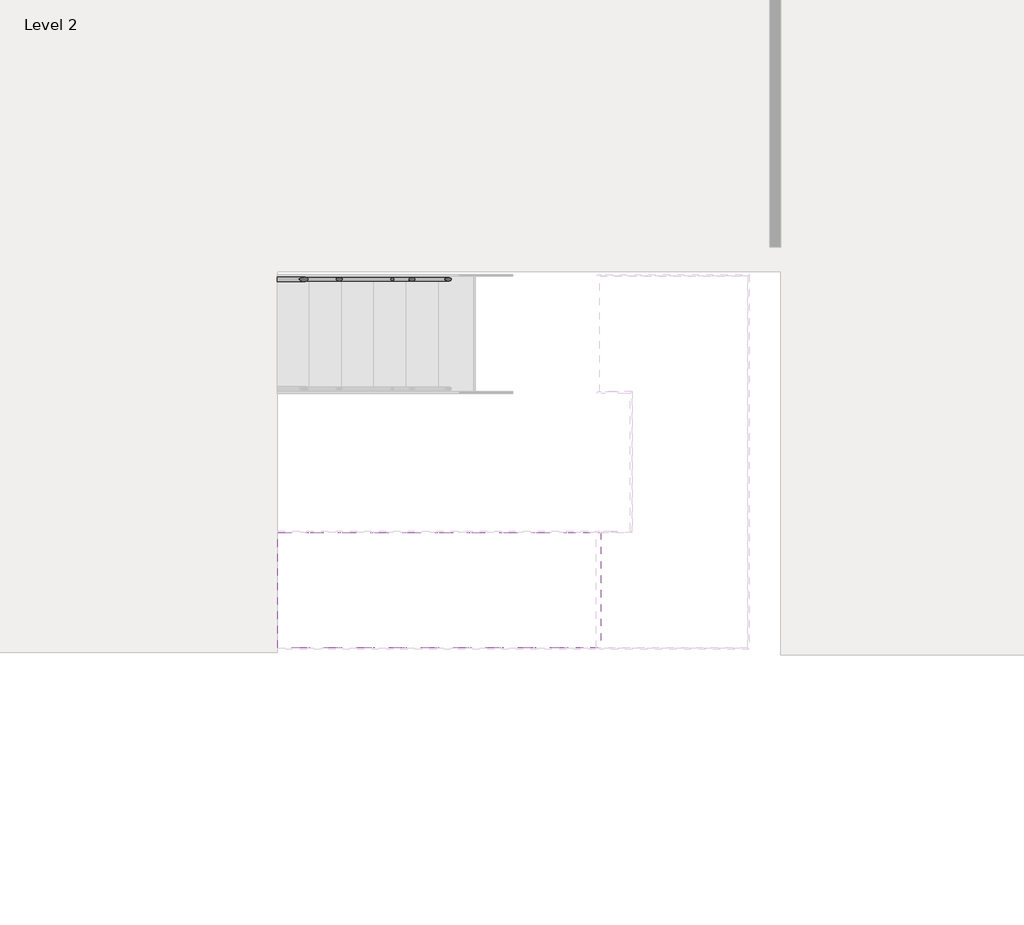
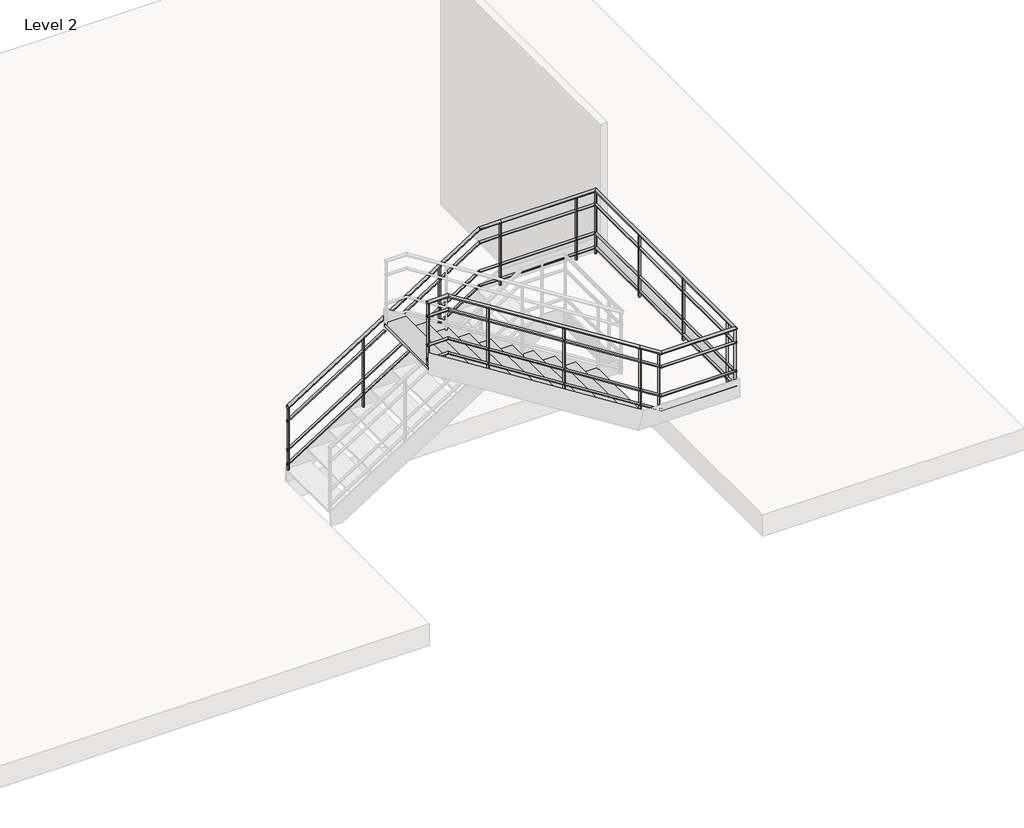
# One storey, part 6 of 7: 1 railing, 1 stair flight.
"""IFC4 building model written with IfcOpenShell, lengths in millimetres."""

from ifc_helpers import new_model, si_unit, point, frame, frame_2d, origin, place, context, project, spatial, circle_curve, ellipse_curve, trimmed, segment, composite_curve, outline, extrude, transform, mapped, element, save
from ifc_brep_helpers import plane_surface, cylinder_surface, advanced_brep
from components import concrete_steps_w_40mm_tread_40mm_nosing_be41ec30

model = new_model("IFC4")

# Units and contexts
model_context = context("Model", 3, world=origin())
ifc_project = project(units=[si_unit("LENGTHUNIT", "METRE", prefix="MILLI")], contexts=[model_context])

# Site, building, storey
site = spatial("IfcSite", under=ifc_project)
building = spatial("IfcBuilding", under=site)
storey = spatial("IfcBuildingStorey", under=building, Name="Level 2", Elevation=7450.0)

# Railing
placement = place(None, origin())
element("IfcRailing", 1, ObjectType="900mm_Pipe 2", at=placement, inside=storey, context=model_context, shape_type="SolidModel", body=[
    advanced_brep(
    [(35285.7942367, -43.5974508, 8503.8199203), (35285.7942367, -3.5974508, 8503.8199203), (37811.5994328, -43.5974508, 10105.0), (37811.5994328, -3.5974508, 10105.0), (38085.7942367, -43.5974508, 10105.0), (38085.7942367, -3.5974508, 10105.0), (39320.3942367, -43.5974508, 10105.0), (39360.3942367, -3.5974508, 10105.0), (39320.3942367, -3175.4571952, 10105.0), (39360.3942367, -3215.4571952, 10105.0), (38366.4595167, -3215.4571952, 10105.0), (38366.4595167, -3175.4571952, 10105.0), (38081.5564959, -3175.4571952, 10285.6081649), (38081.5564959, -3215.4571952, 10285.6081649), (35566.4595167, -3175.4571952, 11880.0), (35566.4595167, -3215.4571952, 11880.0), (35292.2647128, -3175.4571952, 11880.0), (35292.2647128, -3215.4571952, 11880.0)],
    [
        (0, 1, ellipse_curve(frame((35285.7942367, -23.5974508, 8503.8199203), z_axis=(-1.0, 0.0, 0.0), x_axis=(0.0, 0.0, -1.0)), 23.6800797, 20.0)),
        (1, 0, ellipse_curve(frame((35285.7942367, -23.5974508, 8503.8199203), z_axis=(-1.0, 0.0, 0.0), x_axis=(0.0, 0.0, -1.0)), 23.6800797, 20.0)),
        (0, 2),
        (2, 3, ellipse_curve(frame((37811.5994328, -23.5974508, 10105.0), z_axis=(-0.9603623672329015, 0.0, -0.27875459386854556), x_axis=(0.2787545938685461, 0.0, -0.9603623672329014)), 20.8254724, 20.0)),
        (3, 1),
        (3, 2, ellipse_curve(frame((37811.5994328, -23.5974508, 10105.0), z_axis=(-0.9603623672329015, 0.0, -0.27875459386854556), x_axis=(0.2787545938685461, 0.0, -0.9603623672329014)), 20.8254724, 20.0)),
        (2, 4),
        (4, 5, circle_curve(frame((38085.7942367, -23.5974508, 10105.0), z_axis=(-1.0, 0.0, 0.0), x_axis=(0.0, 1.0, 0.0)), 20.0)),
        (5, 3),
        (5, 4, circle_curve(frame((38085.7942367, -23.5974508, 10105.0), z_axis=(-1.0, 0.0, 0.0), x_axis=(0.0, 1.0, 0.0)), 20.0)),
        (4, 6),
        (6, 7, ellipse_curve(frame((39340.3942367, -23.5974508, 10105.0), z_axis=(-0.7071067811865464, 0.7071067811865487, 0.0), x_axis=(-0.7071067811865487, -0.7071067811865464, 0.0)), 28.2842712, 20.0)),
        (7, 5),
        (7, 6, ellipse_curve(frame((39340.3942367, -23.5974508, 10105.0), z_axis=(-0.7071067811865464, 0.7071067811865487, 0.0), x_axis=(-0.7071067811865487, -0.7071067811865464, 0.0)), 28.2842712, 20.0)),
        (6, 8),
        (8, 9, ellipse_curve(frame((39340.3942367, -3195.4571952, 10105.0), z_axis=(0.7071067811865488, 0.7071067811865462, 0.0), x_axis=(-0.7071067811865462, 0.7071067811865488, 0.0)), 28.2842712, 20.0)),
        (9, 7),
        (9, 8, ellipse_curve(frame((39340.3942367, -3195.4571952, 10105.0), z_axis=(0.7071067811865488, 0.7071067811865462, 0.0), x_axis=(-0.7071067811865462, 0.7071067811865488, 0.0)), 28.2842712, 20.0)),
        (10, 11, ellipse_curve(frame((38366.4595167, -3195.4571952, 10105.0), z_axis=(-0.9603623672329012, 0.0, 0.27875459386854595), x_axis=(-0.2787545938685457, 0.0, -0.9603623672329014)), 20.8254724, 20.0)),
        (11, 12),
        (12, 13, circle_curve(frame((38081.5564959, -3195.4571952, 10285.6081649), z_axis=(0.8445917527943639, 0.0, -0.5354108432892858), x_axis=(0.0, -1.0, 0.0)), 20.0)),
        (13, 10),
        (11, 10, ellipse_curve(frame((38366.4595167, -3195.4571952, 10105.0), z_axis=(-0.9603623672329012, 0.0, 0.27875459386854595), x_axis=(-0.2787545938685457, 0.0, -0.9603623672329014)), 20.8254724, 20.0)),
        (13, 12, circle_curve(frame((38081.5564959, -3195.4571952, 10285.6081649), z_axis=(0.8445917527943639, 0.0, -0.5354108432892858), x_axis=(0.0, -1.0, 0.0)), 20.0)),
        (12, 14),
        (14, 15, ellipse_curve(frame((35566.4595167, -3195.4571952, 11880.0), z_axis=(0.9603623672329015, 0.0, -0.27875459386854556), x_axis=(-0.27875459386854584, 0.0, -0.9603623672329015)), 20.8254724, 20.0)),
        (15, 13),
        (15, 14, ellipse_curve(frame((35566.4595167, -3195.4571952, 11880.0), z_axis=(0.9603623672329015, 0.0, -0.27875459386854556), x_axis=(-0.27875459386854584, 0.0, -0.9603623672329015)), 20.8254724, 20.0)),
        (16, 17, circle_curve(frame((35292.2647128, -3195.4571952, 11880.0), z_axis=(-1.0, 0.0, 0.0), x_axis=(0.0, -1.0, 0.0)), 20.0)),
        (17, 16, circle_curve(frame((35292.2647128, -3195.4571952, 11880.0), z_axis=(-1.0, 0.0, 0.0), x_axis=(0.0, -1.0, 0.0)), 20.0)),
        (14, 16),
        (17, 15),
        (8, 11),
        (10, 9),
    ],
    [
        plane_surface(frame((35285.7942367, -23.5974508, 8527.5), z_axis=(-1.0, 0.0, 0.0), x_axis=(0.0, 1.0, 0.0))),
        cylinder_surface(frame((35296.5024535, -23.5974508, 8510.6081649), z_axis=(-0.8445917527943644, 0.0, -0.535410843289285), x_axis=(0.0, 1.0, 0.0)), 20.0),
        cylinder_surface(frame((37805.7942367, -23.5974508, 10105.0), z_axis=(-1.0, 0.0, 0.0), x_axis=(0.0, 1.0, 0.0)), 20.0),
        cylinder_surface(frame((38085.7942367, -23.5974508, 10105.0), z_axis=(-1.0, 0.0, 0.0), x_axis=(0.0, 1.0, 0.0)), 20.0),
        cylinder_surface(frame((39340.3942367, -23.5974508, 10105.0), z_axis=(0.0, 1.0, 0.0), x_axis=(1.0, 0.0, 0.0)), 20.0),
        cylinder_surface(frame((38361.5564959, -3195.4571952, 10108.1081649), z_axis=(0.8445917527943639, 0.0, -0.5354108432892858), x_axis=(0.0, -1.0, 0.0)), 20.0),
        cylinder_surface(frame((38081.5564959, -3195.4571952, 10285.6081649), z_axis=(0.8445917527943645, 0.0, -0.535410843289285), x_axis=(0.0, -1.0, 0.0)), 20.0),
        plane_surface(frame((35292.2647128, -3195.4571952, 11900.0), z_axis=(-1.0, 0.0, 0.0), x_axis=(0.0, -1.0, 0.0))),
        cylinder_surface(frame((35572.2647128, -3195.4571952, 11880.0), z_axis=(1.0, 0.0, 0.0), x_axis=(0.0, -1.0, 0.0)), 20.0),
        cylinder_surface(frame((39340.3942367, -3195.4571952, 10105.0), z_axis=(1.0, 0.0, 0.0), x_axis=(0.0, -1.0, 0.0)), 20.0),
    ],
    [
        (0, [[1, 2]]),
        (1, [[-1, 3, 4, 5]]),
        (1, [[-2, -5, 6, -3]]),
        (2, [[-4, 7, 8, 9]]),
        (2, [[-6, -9, 10, -7]]),
        (3, [[-8, 11, 12, 13]]),
        (3, [[-10, -13, 14, -11]]),
        (4, [[-12, 15, 16, 17]]),
        (4, [[-14, -17, 18, -15]]),
        (5, [[19, 20, 21, 22]]),
        (5, [[23, -22, 24, -20]]),
        (6, [[-21, 25, 26, 27]]),
        (6, [[-24, -27, 28, -25]]),
        (7, [[29, 30]]),
        (8, [[-26, 31, -30, 32]]),
        (8, [[-28, -32, -29, -31]]),
        (9, [[-16, 33, -19, 34]]),
        (9, [[-18, -34, -23, -33]]),
    ],
),
    advanced_brep(
    [(38085.7942367, -38.5974508, 9910.0), (38085.7942367, -8.5974508, 9910.0), (39325.3942367, -38.5974508, 9910.0), (39325.3942367, -8.5974508, 9910.0)],
    [
        (0, 1, circle_curve(frame((38085.7942367, -23.5974508, 9910.0), z_axis=(-1.0, 0.0, 0.0), x_axis=(0.0, 1.0, 0.0)), 15.0)),
        (1, 0, circle_curve(frame((38085.7942367, -23.5974508, 9910.0), z_axis=(-1.0, 0.0, 0.0), x_axis=(0.0, 1.0, 0.0)), 15.0)),
        (2, 3, circle_curve(frame((39325.3942367, -23.5974508, 9910.0), z_axis=(1.0, 0.0, 0.0), x_axis=(0.0, 1.0, 0.0)), 15.0)),
        (3, 2, circle_curve(frame((39325.3942367, -23.5974508, 9910.0), z_axis=(1.0, 0.0, 0.0), x_axis=(0.0, 1.0, 0.0)), 15.0)),
        (0, 2),
        (3, 1),
    ],
    [
        plane_surface(frame((38085.7942367, -23.5974508, 9925.0), z_axis=(-1.0, 0.0, 0.0), x_axis=(0.0, 1.0, 0.0))),
        plane_surface(frame((39325.3942367, -23.5974508, 9925.0), z_axis=(1.0, 0.0, 0.0), x_axis=(0.0, 1.0, 0.0))),
        cylinder_surface(frame((38085.7942367, -23.5974508, 9910.0), z_axis=(-1.0, 0.0, 0.0), x_axis=(0.0, 1.0, 0.0)), 15.0),
    ],
    [
        (0, [[1, 2]]),
        (1, [[3, 4]]),
        (2, [[-1, 5, -4, 6]]),
        (2, [[-2, -6, -3, -5]]),
    ],
),
    advanced_brep(
    [(39325.3942367, -8.5974508, 9910.0), (39355.3942367, -8.5974508, 9910.0), (39325.3942367, -3180.4571952, 9910.0), (39355.3942367, -3180.4571952, 9910.0)],
    [
        (0, 1, circle_curve(frame((39340.3942367, -8.5974508, 9910.0), z_axis=(0.0, 1.0, 0.0), x_axis=(1.0, 0.0, 0.0)), 15.0)),
        (1, 0, circle_curve(frame((39340.3942367, -8.5974508, 9910.0), z_axis=(0.0, 1.0, 0.0), x_axis=(1.0, 0.0, 0.0)), 15.0)),
        (2, 3, circle_curve(frame((39340.3942367, -3180.4571952, 9910.0), z_axis=(0.0, -1.0, 0.0), x_axis=(1.0, 0.0, 0.0)), 15.0)),
        (3, 2, circle_curve(frame((39340.3942367, -3180.4571952, 9910.0), z_axis=(0.0, -1.0, 0.0), x_axis=(1.0, 0.0, 0.0)), 15.0)),
        (0, 2),
        (3, 1),
    ],
    [
        plane_surface(frame((39340.3942367, -8.5974508, 9925.0), z_axis=(0.0, 1.0, 0.0), x_axis=(0.0, 0.0, -1.0))),
        plane_surface(frame((39340.3942367, -3180.4571952, 9925.0), z_axis=(0.0, -1.0, 0.0), x_axis=(0.0, 0.0, -1.0))),
        cylinder_surface(frame((39340.3942367, -8.5974508, 9910.0), z_axis=(0.0, 1.0, 0.0), x_axis=(1.0, 0.0, 0.0)), 15.0),
    ],
    [
        (0, [[1, 2]]),
        (1, [[3, 4]]),
        (2, [[-1, 5, -4, 6]]),
        (2, [[-2, -6, -3, -5]]),
    ],
),
    advanced_brep(
    [(39355.3942367, -3180.4571952, 9910.0), (39355.3942367, -3210.4571952, 9910.0), (38367.9108157, -3180.4571952, 9910.0), (38367.9108157, -3210.4571952, 9910.0), (38092.2647128, -3180.4571952, 10084.7399402), (38092.2647128, -3210.4571952, 10084.7399402)],
    [
        (0, 1, circle_curve(frame((39355.3942367, -3195.4571952, 9910.0), z_axis=(1.0, 0.0, 0.0), x_axis=(0.0, -1.0, 0.0)), 15.0)),
        (1, 0, circle_curve(frame((39355.3942367, -3195.4571952, 9910.0), z_axis=(1.0, 0.0, 0.0), x_axis=(0.0, -1.0, 0.0)), 15.0)),
        (0, 2),
        (2, 3, ellipse_curve(frame((38367.9108157, -3195.4571952, 9910.0), z_axis=(0.9603623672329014, 0.0, -0.2787545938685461), x_axis=(0.2787545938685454, 0.0, 0.9603623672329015)), 15.6191043, 15.0)),
        (3, 1),
        (3, 2, ellipse_curve(frame((38367.9108157, -3195.4571952, 9910.0), z_axis=(0.9603623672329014, 0.0, -0.2787545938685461), x_axis=(0.2787545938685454, 0.0, 0.9603623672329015)), 15.6191043, 15.0)),
        (4, 5, ellipse_curve(frame((38092.2647128, -3195.4571952, 10084.7399402), z_axis=(-1.0, 0.0, 0.0), x_axis=(0.0, 0.0, -1.0)), 17.7600598, 15.0)),
        (5, 4, ellipse_curve(frame((38092.2647128, -3195.4571952, 10084.7399402), z_axis=(-1.0, 0.0, 0.0), x_axis=(0.0, 0.0, -1.0)), 17.7600598, 15.0)),
        (2, 4),
        (5, 3),
    ],
    [
        plane_surface(frame((39355.3942367, -3195.4571952, 9925.0), z_axis=(1.0, 0.0, 0.0), x_axis=(0.0, -1.0, 0.0))),
        cylinder_surface(frame((39355.3942367, -3195.4571952, 9910.0), z_axis=(1.0, 0.0, 0.0), x_axis=(0.0, -1.0, 0.0)), 15.0),
        plane_surface(frame((38092.2647128, -3195.4571952, 10102.5), z_axis=(-1.0, 0.0, 0.0), x_axis=(0.0, -1.0, 0.0))),
        cylinder_surface(frame((38364.2335502, -3195.4571952, 9912.3311237), z_axis=(0.8445917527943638, 0.0, -0.5354108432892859), x_axis=(0.0, -1.0, 0.0)), 15.0),
    ],
    [
        (0, [[1, 2]]),
        (1, [[-1, 3, 4, 5]]),
        (1, [[-2, -5, 6, -3]]),
        (2, [[7, 8]]),
        (3, [[-4, 9, -8, 10]]),
        (3, [[-6, -10, -7, -9]]),
    ],
),
    advanced_brep(
    [(38085.7942367, -38.5974508, 9510.0), (38085.7942367, -8.5974508, 9510.0), (39325.3942367, -38.5974508, 9510.0), (39325.3942367, -8.5974508, 9510.0)],
    [
        (0, 1, circle_curve(frame((38085.7942367, -23.5974508, 9510.0), z_axis=(-1.0, 0.0, 0.0), x_axis=(0.0, 1.0, 0.0)), 15.0)),
        (1, 0, circle_curve(frame((38085.7942367, -23.5974508, 9510.0), z_axis=(-1.0, 0.0, 0.0), x_axis=(0.0, 1.0, 0.0)), 15.0)),
        (2, 3, circle_curve(frame((39325.3942367, -23.5974508, 9510.0), z_axis=(1.0, 0.0, 0.0), x_axis=(0.0, 1.0, 0.0)), 15.0)),
        (3, 2, circle_curve(frame((39325.3942367, -23.5974508, 9510.0), z_axis=(1.0, 0.0, 0.0), x_axis=(0.0, 1.0, 0.0)), 15.0)),
        (0, 2),
        (3, 1),
    ],
    [
        plane_surface(frame((38085.7942367, -23.5974508, 9525.0), z_axis=(-1.0, 0.0, 0.0), x_axis=(0.0, 1.0, 0.0))),
        plane_surface(frame((39325.3942367, -23.5974508, 9525.0), z_axis=(1.0, 0.0, 0.0), x_axis=(0.0, 1.0, 0.0))),
        cylinder_surface(frame((38085.7942367, -23.5974508, 9510.0), z_axis=(-1.0, 0.0, 0.0), x_axis=(0.0, 1.0, 0.0)), 15.0),
    ],
    [
        (0, [[1, 2]]),
        (1, [[3, 4]]),
        (2, [[-1, 5, -4, 6]]),
        (2, [[-2, -6, -3, -5]]),
    ],
),
    advanced_brep(
    [(39325.3942367, -8.5974508, 9510.0), (39355.3942367, -8.5974508, 9510.0), (39325.3942367, -3180.4571952, 9510.0), (39355.3942367, -3180.4571952, 9510.0)],
    [
        (0, 1, circle_curve(frame((39340.3942367, -8.5974508, 9510.0), z_axis=(0.0, 1.0, 0.0), x_axis=(1.0, 0.0, 0.0)), 15.0)),
        (1, 0, circle_curve(frame((39340.3942367, -8.5974508, 9510.0), z_axis=(0.0, 1.0, 0.0), x_axis=(1.0, 0.0, 0.0)), 15.0)),
        (2, 3, circle_curve(frame((39340.3942367, -3180.4571952, 9510.0), z_axis=(0.0, -1.0, 0.0), x_axis=(1.0, 0.0, 0.0)), 15.0)),
        (3, 2, circle_curve(frame((39340.3942367, -3180.4571952, 9510.0), z_axis=(0.0, -1.0, 0.0), x_axis=(1.0, 0.0, 0.0)), 15.0)),
        (0, 2),
        (3, 1),
    ],
    [
        plane_surface(frame((39340.3942367, -8.5974508, 9525.0), z_axis=(0.0, 1.0, 0.0), x_axis=(0.0, 0.0, -1.0))),
        plane_surface(frame((39340.3942367, -3180.4571952, 9525.0), z_axis=(0.0, -1.0, 0.0), x_axis=(0.0, 0.0, -1.0))),
        cylinder_surface(frame((39340.3942367, -8.5974508, 9510.0), z_axis=(0.0, 1.0, 0.0), x_axis=(1.0, 0.0, 0.0)), 15.0),
    ],
    [
        (0, [[1, 2]]),
        (1, [[3, 4]]),
        (2, [[-1, 5, -4, 6]]),
        (2, [[-2, -6, -3, -5]]),
    ],
),
    advanced_brep(
    [(39355.3942367, -3180.4571952, 9510.0), (39355.3942367, -3210.4571952, 9510.0), (38367.9108157, -3180.4571952, 9510.0), (38367.9108157, -3210.4571952, 9510.0), (38092.2647128, -3180.4571952, 9684.7399402), (38092.2647128, -3210.4571952, 9684.7399402)],
    [
        (0, 1, circle_curve(frame((39355.3942367, -3195.4571952, 9510.0), z_axis=(1.0, 0.0, 0.0), x_axis=(0.0, -1.0, 0.0)), 15.0)),
        (1, 0, circle_curve(frame((39355.3942367, -3195.4571952, 9510.0), z_axis=(1.0, 0.0, 0.0), x_axis=(0.0, -1.0, 0.0)), 15.0)),
        (0, 2),
        (2, 3, ellipse_curve(frame((38367.9108157, -3195.4571952, 9510.0), z_axis=(0.9603623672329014, 0.0, -0.2787545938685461), x_axis=(0.2787545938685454, 0.0, 0.9603623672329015)), 15.6191043, 15.0)),
        (3, 1),
        (3, 2, ellipse_curve(frame((38367.9108157, -3195.4571952, 9510.0), z_axis=(0.9603623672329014, 0.0, -0.2787545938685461), x_axis=(0.2787545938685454, 0.0, 0.9603623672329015)), 15.6191043, 15.0)),
        (4, 5, ellipse_curve(frame((38092.2647128, -3195.4571952, 9684.7399402), z_axis=(-1.0, 0.0, 0.0), x_axis=(0.0, 0.0, -1.0)), 17.7600598, 15.0)),
        (5, 4, ellipse_curve(frame((38092.2647128, -3195.4571952, 9684.7399402), z_axis=(-1.0, 0.0, 0.0), x_axis=(0.0, 0.0, -1.0)), 17.7600598, 15.0)),
        (2, 4),
        (5, 3),
    ],
    [
        plane_surface(frame((39355.3942367, -3195.4571952, 9525.0), z_axis=(1.0, 0.0, 0.0), x_axis=(0.0, -1.0, 0.0))),
        cylinder_surface(frame((39355.3942367, -3195.4571952, 9510.0), z_axis=(1.0, 0.0, 0.0), x_axis=(0.0, -1.0, 0.0)), 15.0),
        plane_surface(frame((38092.2647128, -3195.4571952, 9702.5), z_axis=(-1.0, 0.0, 0.0), x_axis=(0.0, -1.0, 0.0))),
        cylinder_surface(frame((38364.2335502, -3195.4571952, 9512.3311237), z_axis=(0.8445917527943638, 0.0, -0.5354108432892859), x_axis=(0.0, -1.0, 0.0)), 15.0),
    ],
    [
        (0, [[1, 2]]),
        (1, [[-1, 3, 4, 5]]),
        (1, [[-2, -5, 6, -3]]),
        (2, [[7, 8]]),
        (3, [[-4, 9, -8, 10]]),
        (3, [[-6, -10, -7, -9]]),
    ],
),
    advanced_brep(
    [(38085.7942367, -38.5974508, 9310.0), (38085.7942367, -8.5974508, 9310.0), (39325.3942367, -38.5974508, 9310.0), (39325.3942367, -8.5974508, 9310.0)],
    [
        (0, 1, circle_curve(frame((38085.7942367, -23.5974508, 9310.0), z_axis=(-1.0, 0.0, 0.0), x_axis=(0.0, 1.0, 0.0)), 15.0)),
        (1, 0, circle_curve(frame((38085.7942367, -23.5974508, 9310.0), z_axis=(-1.0, 0.0, 0.0), x_axis=(0.0, 1.0, 0.0)), 15.0)),
        (2, 3, circle_curve(frame((39325.3942367, -23.5974508, 9310.0), z_axis=(1.0, 0.0, 0.0), x_axis=(0.0, 1.0, 0.0)), 15.0)),
        (3, 2, circle_curve(frame((39325.3942367, -23.5974508, 9310.0), z_axis=(1.0, 0.0, 0.0), x_axis=(0.0, 1.0, 0.0)), 15.0)),
        (0, 2),
        (3, 1),
    ],
    [
        plane_surface(frame((38085.7942367, -23.5974508, 9325.0), z_axis=(-1.0, 0.0, 0.0), x_axis=(0.0, 1.0, 0.0))),
        plane_surface(frame((39325.3942367, -23.5974508, 9325.0), z_axis=(1.0, 0.0, 0.0), x_axis=(0.0, 1.0, 0.0))),
        cylinder_surface(frame((38085.7942367, -23.5974508, 9310.0), z_axis=(-1.0, 0.0, 0.0), x_axis=(0.0, 1.0, 0.0)), 15.0),
    ],
    [
        (0, [[1, 2]]),
        (1, [[3, 4]]),
        (2, [[-1, 5, -4, 6]]),
        (2, [[-2, -6, -3, -5]]),
    ],
),
    advanced_brep(
    [(39325.3942367, -8.5974508, 9310.0), (39355.3942367, -8.5974508, 9310.0), (39325.3942367, -3180.4571952, 9310.0), (39355.3942367, -3180.4571952, 9310.0)],
    [
        (0, 1, circle_curve(frame((39340.3942367, -8.5974508, 9310.0), z_axis=(0.0, 1.0, 0.0), x_axis=(1.0, 0.0, 0.0)), 15.0)),
        (1, 0, circle_curve(frame((39340.3942367, -8.5974508, 9310.0), z_axis=(0.0, 1.0, 0.0), x_axis=(1.0, 0.0, 0.0)), 15.0)),
        (2, 3, circle_curve(frame((39340.3942367, -3180.4571952, 9310.0), z_axis=(0.0, -1.0, 0.0), x_axis=(1.0, 0.0, 0.0)), 15.0)),
        (3, 2, circle_curve(frame((39340.3942367, -3180.4571952, 9310.0), z_axis=(0.0, -1.0, 0.0), x_axis=(1.0, 0.0, 0.0)), 15.0)),
        (0, 2),
        (3, 1),
    ],
    [
        plane_surface(frame((39340.3942367, -8.5974508, 9325.0), z_axis=(0.0, 1.0, 0.0), x_axis=(0.0, 0.0, -1.0))),
        plane_surface(frame((39340.3942367, -3180.4571952, 9325.0), z_axis=(0.0, -1.0, 0.0), x_axis=(0.0, 0.0, -1.0))),
        cylinder_surface(frame((39340.3942367, -8.5974508, 9310.0), z_axis=(0.0, 1.0, 0.0), x_axis=(1.0, 0.0, 0.0)), 15.0),
    ],
    [
        (0, [[1, 2]]),
        (1, [[3, 4]]),
        (2, [[-1, 5, -4, 6]]),
        (2, [[-2, -6, -3, -5]]),
    ],
),
    advanced_brep(
    [(39355.3942367, -3180.4571952, 9310.0), (39355.3942367, -3210.4571952, 9310.0), (38367.9108157, -3180.4571952, 9310.0), (38367.9108157, -3210.4571952, 9310.0), (38092.2647128, -3180.4571952, 9484.7399402), (38092.2647128, -3210.4571952, 9484.7399402)],
    [
        (0, 1, circle_curve(frame((39355.3942367, -3195.4571952, 9310.0), z_axis=(1.0, 0.0, 0.0), x_axis=(0.0, -1.0, 0.0)), 15.0)),
        (1, 0, circle_curve(frame((39355.3942367, -3195.4571952, 9310.0), z_axis=(1.0, 0.0, 0.0), x_axis=(0.0, -1.0, 0.0)), 15.0)),
        (0, 2),
        (2, 3, ellipse_curve(frame((38367.9108157, -3195.4571952, 9310.0), z_axis=(0.9603623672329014, 0.0, -0.2787545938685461), x_axis=(0.2787545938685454, 0.0, 0.9603623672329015)), 15.6191043, 15.0)),
        (3, 1),
        (3, 2, ellipse_curve(frame((38367.9108157, -3195.4571952, 9310.0), z_axis=(0.9603623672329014, 0.0, -0.2787545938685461), x_axis=(0.2787545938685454, 0.0, 0.9603623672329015)), 15.6191043, 15.0)),
        (4, 5, ellipse_curve(frame((38092.2647128, -3195.4571952, 9484.7399402), z_axis=(-1.0, 0.0, 0.0), x_axis=(0.0, 0.0, -1.0)), 17.7600598, 15.0)),
        (5, 4, ellipse_curve(frame((38092.2647128, -3195.4571952, 9484.7399402), z_axis=(-1.0, 0.0, 0.0), x_axis=(0.0, 0.0, -1.0)), 17.7600598, 15.0)),
        (2, 4),
        (5, 3),
    ],
    [
        plane_surface(frame((39355.3942367, -3195.4571952, 9325.0), z_axis=(1.0, 0.0, 0.0), x_axis=(0.0, -1.0, 0.0))),
        cylinder_surface(frame((39355.3942367, -3195.4571952, 9310.0), z_axis=(1.0, 0.0, 0.0), x_axis=(0.0, -1.0, 0.0)), 15.0),
        plane_surface(frame((38092.2647128, -3195.4571952, 9502.5), z_axis=(-1.0, 0.0, 0.0), x_axis=(0.0, -1.0, 0.0))),
        cylinder_surface(frame((38364.2335502, -3195.4571952, 9312.3311237), z_axis=(0.8445917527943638, 0.0, -0.5354108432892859), x_axis=(0.0, -1.0, 0.0)), 15.0),
    ],
    [
        (0, [[1, 2]]),
        (1, [[-1, 3, 4, 5]]),
        (1, [[-2, -5, 6, -3]]),
        (2, [[7, 8]]),
        (3, [[-4, 9, -8, 10]]),
        (3, [[-6, -10, -7, -9]]),
    ],
),
    advanced_brep(
    [(35285.7942367, -38.5974508, 8309.7399402), (35285.7942367, -8.5974508, 8309.7399402), (37810.1481338, -38.5974508, 9910.0), (37810.1481338, -8.5974508, 9910.0), (38085.7942367, -38.5974508, 9910.0), (38085.7942367, -8.5974508, 9910.0)],
    [
        (0, 1, ellipse_curve(frame((35285.7942367, -23.5974508, 8309.7399402), z_axis=(-1.0, 0.0, 0.0), x_axis=(0.0, 0.0, -1.0)), 17.7600598, 15.0)),
        (1, 0, ellipse_curve(frame((35285.7942367, -23.5974508, 8309.7399402), z_axis=(-1.0, 0.0, 0.0), x_axis=(0.0, 0.0, -1.0)), 17.7600598, 15.0)),
        (0, 2),
        (2, 3, ellipse_curve(frame((37810.1481338, -23.5974508, 9910.0), z_axis=(-0.9603623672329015, 0.0, -0.27875459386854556), x_axis=(0.2787545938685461, 0.0, -0.9603623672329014)), 15.6191043, 15.0)),
        (3, 1),
        (3, 2, ellipse_curve(frame((37810.1481338, -23.5974508, 9910.0), z_axis=(-0.9603623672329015, 0.0, -0.27875459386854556), x_axis=(0.2787545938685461, 0.0, -0.9603623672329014)), 15.6191043, 15.0)),
        (4, 5, circle_curve(frame((38085.7942367, -23.5974508, 9910.0), z_axis=(1.0, 0.0, 0.0), x_axis=(0.0, 1.0, 0.0)), 15.0)),
        (5, 4, circle_curve(frame((38085.7942367, -23.5974508, 9910.0), z_axis=(1.0, 0.0, 0.0), x_axis=(0.0, 1.0, 0.0)), 15.0)),
        (2, 4),
        (5, 3),
    ],
    [
        plane_surface(frame((35285.7942367, -23.5974508, 8327.5), z_axis=(-1.0, 0.0, 0.0), x_axis=(0.0, 1.0, 0.0))),
        cylinder_surface(frame((35293.8253993, -23.5974508, 8314.8311237), z_axis=(-0.8445917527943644, 0.0, -0.535410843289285), x_axis=(0.0, 1.0, 0.0)), 15.0),
        plane_surface(frame((38085.7942367, -23.5974508, 9925.0), z_axis=(1.0, 0.0, 0.0), x_axis=(0.0, 1.0, 0.0))),
        cylinder_surface(frame((37805.7942367, -23.5974508, 9910.0), z_axis=(-1.0, 0.0, 0.0), x_axis=(0.0, 1.0, 0.0)), 15.0),
    ],
    [
        (0, [[1, 2]]),
        (1, [[-1, 3, 4, 5]]),
        (1, [[-2, -5, 6, -3]]),
        (2, [[7, 8]]),
        (3, [[-4, 9, -8, 10]]),
        (3, [[-6, -10, -7, -9]]),
    ],
),
    advanced_brep(
    [(38092.2647128, -3180.4571952, 10084.7399402), (38092.2647128, -3210.4571952, 10084.7399402), (35567.9108157, -3180.4571952, 11685.0), (35567.9108157, -3210.4571952, 11685.0), (35292.2647128, -3180.4571952, 11685.0), (35292.2647128, -3210.4571952, 11685.0)],
    [
        (0, 1, ellipse_curve(frame((38092.2647128, -3195.4571952, 10084.7399402), z_axis=(1.0, 0.0, 0.0), x_axis=(0.0, 0.0, -1.0)), 17.7600598, 15.0)),
        (1, 0, ellipse_curve(frame((38092.2647128, -3195.4571952, 10084.7399402), z_axis=(1.0, 0.0, 0.0), x_axis=(0.0, 0.0, -1.0)), 17.7600598, 15.0)),
        (0, 2),
        (2, 3, ellipse_curve(frame((35567.9108157, -3195.4571952, 11685.0), z_axis=(0.9603623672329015, 0.0, -0.27875459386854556), x_axis=(-0.2787545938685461, 0.0, -0.9603623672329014)), 15.6191043, 15.0)),
        (3, 1),
        (3, 2, ellipse_curve(frame((35567.9108157, -3195.4571952, 11685.0), z_axis=(0.9603623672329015, 0.0, -0.27875459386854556), x_axis=(-0.2787545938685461, 0.0, -0.9603623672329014)), 15.6191043, 15.0)),
        (4, 5, circle_curve(frame((35292.2647128, -3195.4571952, 11685.0), z_axis=(-1.0, 0.0, 0.0), x_axis=(0.0, -1.0, 0.0)), 15.0)),
        (5, 4, circle_curve(frame((35292.2647128, -3195.4571952, 11685.0), z_axis=(-1.0, 0.0, 0.0), x_axis=(0.0, -1.0, 0.0)), 15.0)),
        (2, 4),
        (5, 3),
    ],
    [
        plane_surface(frame((38092.2647128, -3195.4571952, 10102.5), z_axis=(1.0, 0.0, 0.0), x_axis=(0.0, -1.0, 0.0))),
        cylinder_surface(frame((38084.2335502, -3195.4571952, 10089.8311237), z_axis=(0.8445917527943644, 0.0, -0.535410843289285), x_axis=(0.0, -1.0, 0.0)), 15.0),
        plane_surface(frame((35292.2647128, -3195.4571952, 11700.0), z_axis=(-1.0, 0.0, 0.0), x_axis=(0.0, -1.0, 0.0))),
        cylinder_surface(frame((35572.2647128, -3195.4571952, 11685.0), z_axis=(1.0, 0.0, 0.0), x_axis=(0.0, -1.0, 0.0)), 15.0),
    ],
    [
        (0, [[1, 2]]),
        (1, [[-1, 3, 4, 5]]),
        (1, [[-2, -5, 6, -3]]),
        (2, [[7, 8]]),
        (3, [[-4, 9, -8, 10]]),
        (3, [[-6, -10, -7, -9]]),
    ],
),
    advanced_brep(
    [(35285.7942367, -38.5974508, 7909.7399402), (35285.7942367, -8.5974508, 7909.7399402), (37810.1481338, -38.5974508, 9510.0), (37810.1481338, -8.5974508, 9510.0), (38085.7942367, -38.5974508, 9510.0), (38085.7942367, -8.5974508, 9510.0)],
    [
        (0, 1, ellipse_curve(frame((35285.7942367, -23.5974508, 7909.7399402), z_axis=(-1.0, 0.0, 0.0), x_axis=(0.0, 0.0, -1.0)), 17.7600598, 15.0)),
        (1, 0, ellipse_curve(frame((35285.7942367, -23.5974508, 7909.7399402), z_axis=(-1.0, 0.0, 0.0), x_axis=(0.0, 0.0, -1.0)), 17.7600598, 15.0)),
        (0, 2),
        (2, 3, ellipse_curve(frame((37810.1481338, -23.5974508, 9510.0), z_axis=(-0.9603623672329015, 0.0, -0.27875459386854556), x_axis=(0.2787545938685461, 0.0, -0.9603623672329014)), 15.6191043, 15.0)),
        (3, 1),
        (3, 2, ellipse_curve(frame((37810.1481338, -23.5974508, 9510.0), z_axis=(-0.9603623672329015, 0.0, -0.27875459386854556), x_axis=(0.2787545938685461, 0.0, -0.9603623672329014)), 15.6191043, 15.0)),
        (4, 5, circle_curve(frame((38085.7942367, -23.5974508, 9510.0), z_axis=(1.0, 0.0, 0.0), x_axis=(0.0, 1.0, 0.0)), 15.0)),
        (5, 4, circle_curve(frame((38085.7942367, -23.5974508, 9510.0), z_axis=(1.0, 0.0, 0.0), x_axis=(0.0, 1.0, 0.0)), 15.0)),
        (2, 4),
        (5, 3),
    ],
    [
        plane_surface(frame((35285.7942367, -23.5974508, 7927.5), z_axis=(-1.0, 0.0, 0.0), x_axis=(0.0, 1.0, 0.0))),
        cylinder_surface(frame((35293.8253993, -23.5974508, 7914.8311237), z_axis=(-0.8445917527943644, 0.0, -0.535410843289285), x_axis=(0.0, 1.0, 0.0)), 15.0),
        plane_surface(frame((38085.7942367, -23.5974508, 9525.0), z_axis=(1.0, 0.0, 0.0), x_axis=(0.0, 1.0, 0.0))),
        cylinder_surface(frame((37805.7942367, -23.5974508, 9510.0), z_axis=(-1.0, 0.0, 0.0), x_axis=(0.0, 1.0, 0.0)), 15.0),
    ],
    [
        (0, [[1, 2]]),
        (1, [[-1, 3, 4, 5]]),
        (1, [[-2, -5, 6, -3]]),
        (2, [[7, 8]]),
        (3, [[-4, 9, -8, 10]]),
        (3, [[-6, -10, -7, -9]]),
    ],
),
    advanced_brep(
    [(38092.2647128, -3180.4571952, 9684.7399402), (38092.2647128, -3210.4571952, 9684.7399402), (35567.9108157, -3180.4571952, 11285.0), (35567.9108157, -3210.4571952, 11285.0), (35292.2647128, -3180.4571952, 11285.0), (35292.2647128, -3210.4571952, 11285.0)],
    [
        (0, 1, ellipse_curve(frame((38092.2647128, -3195.4571952, 9684.7399402), z_axis=(1.0, 0.0, 0.0), x_axis=(0.0, 0.0, -1.0)), 17.7600598, 15.0)),
        (1, 0, ellipse_curve(frame((38092.2647128, -3195.4571952, 9684.7399402), z_axis=(1.0, 0.0, 0.0), x_axis=(0.0, 0.0, -1.0)), 17.7600598, 15.0)),
        (0, 2),
        (2, 3, ellipse_curve(frame((35567.9108157, -3195.4571952, 11285.0), z_axis=(0.9603623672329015, 0.0, -0.27875459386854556), x_axis=(-0.2787545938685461, 0.0, -0.9603623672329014)), 15.6191043, 15.0)),
        (3, 1),
        (3, 2, ellipse_curve(frame((35567.9108157, -3195.4571952, 11285.0), z_axis=(0.9603623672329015, 0.0, -0.27875459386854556), x_axis=(-0.2787545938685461, 0.0, -0.9603623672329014)), 15.6191043, 15.0)),
        (4, 5, circle_curve(frame((35292.2647128, -3195.4571952, 11285.0), z_axis=(-1.0, 0.0, 0.0), x_axis=(0.0, -1.0, 0.0)), 15.0)),
        (5, 4, circle_curve(frame((35292.2647128, -3195.4571952, 11285.0), z_axis=(-1.0, 0.0, 0.0), x_axis=(0.0, -1.0, 0.0)), 15.0)),
        (2, 4),
        (5, 3),
    ],
    [
        plane_surface(frame((38092.2647128, -3195.4571952, 9702.5), z_axis=(1.0, 0.0, 0.0), x_axis=(0.0, -1.0, 0.0))),
        cylinder_surface(frame((38084.2335502, -3195.4571952, 9689.8311237), z_axis=(0.8445917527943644, 0.0, -0.535410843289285), x_axis=(0.0, -1.0, 0.0)), 15.0),
        plane_surface(frame((35292.2647128, -3195.4571952, 11300.0), z_axis=(-1.0, 0.0, 0.0), x_axis=(0.0, -1.0, 0.0))),
        cylinder_surface(frame((35572.2647128, -3195.4571952, 11285.0), z_axis=(1.0, 0.0, 0.0), x_axis=(0.0, -1.0, 0.0)), 15.0),
    ],
    [
        (0, [[1, 2]]),
        (1, [[-1, 3, 4, 5]]),
        (1, [[-2, -5, 6, -3]]),
        (2, [[7, 8]]),
        (3, [[-4, 9, -8, 10]]),
        (3, [[-6, -10, -7, -9]]),
    ],
),
    advanced_brep(
    [(35285.7942367, -38.5974508, 7709.7399402), (35285.7942367, -8.5974508, 7709.7399402), (37810.1481338, -38.5974508, 9310.0), (37810.1481338, -8.5974508, 9310.0), (38085.7942367, -38.5974508, 9310.0), (38085.7942367, -8.5974508, 9310.0)],
    [
        (0, 1, ellipse_curve(frame((35285.7942367, -23.5974508, 7709.7399402), z_axis=(-1.0, 0.0, 0.0), x_axis=(0.0, 0.0, -1.0)), 17.7600598, 15.0)),
        (1, 0, ellipse_curve(frame((35285.7942367, -23.5974508, 7709.7399402), z_axis=(-1.0, 0.0, 0.0), x_axis=(0.0, 0.0, -1.0)), 17.7600598, 15.0)),
        (0, 2),
        (2, 3, ellipse_curve(frame((37810.1481338, -23.5974508, 9310.0), z_axis=(-0.9603623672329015, 0.0, -0.27875459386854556), x_axis=(0.2787545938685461, 0.0, -0.9603623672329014)), 15.6191043, 15.0)),
        (3, 1),
        (3, 2, ellipse_curve(frame((37810.1481338, -23.5974508, 9310.0), z_axis=(-0.9603623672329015, 0.0, -0.27875459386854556), x_axis=(0.2787545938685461, 0.0, -0.9603623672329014)), 15.6191043, 15.0)),
        (4, 5, circle_curve(frame((38085.7942367, -23.5974508, 9310.0), z_axis=(1.0, 0.0, 0.0), x_axis=(0.0, 1.0, 0.0)), 15.0)),
        (5, 4, circle_curve(frame((38085.7942367, -23.5974508, 9310.0), z_axis=(1.0, 0.0, 0.0), x_axis=(0.0, 1.0, 0.0)), 15.0)),
        (2, 4),
        (5, 3),
    ],
    [
        plane_surface(frame((35285.7942367, -23.5974508, 7727.5), z_axis=(-1.0, 0.0, 0.0), x_axis=(0.0, 1.0, 0.0))),
        cylinder_surface(frame((35293.8253993, -23.5974508, 7714.8311237), z_axis=(-0.8445917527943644, 0.0, -0.535410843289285), x_axis=(0.0, 1.0, 0.0)), 15.0),
        plane_surface(frame((38085.7942367, -23.5974508, 9325.0), z_axis=(1.0, 0.0, 0.0), x_axis=(0.0, 1.0, 0.0))),
        cylinder_surface(frame((37805.7942367, -23.5974508, 9310.0), z_axis=(-1.0, 0.0, 0.0), x_axis=(0.0, 1.0, 0.0)), 15.0),
    ],
    [
        (0, [[1, 2]]),
        (1, [[-1, 3, 4, 5]]),
        (1, [[-2, -5, 6, -3]]),
        (2, [[7, 8]]),
        (3, [[-4, 9, -8, 10]]),
        (3, [[-6, -10, -7, -9]]),
    ],
),
    advanced_brep(
    [(38092.2647128, -3180.4571952, 9484.7399402), (38092.2647128, -3210.4571952, 9484.7399402), (35567.9108157, -3180.4571952, 11085.0), (35567.9108157, -3210.4571952, 11085.0), (35292.2647128, -3180.4571952, 11085.0), (35292.2647128, -3210.4571952, 11085.0)],
    [
        (0, 1, ellipse_curve(frame((38092.2647128, -3195.4571952, 9484.7399402), z_axis=(1.0, 0.0, 0.0), x_axis=(0.0, 0.0, -1.0)), 17.7600598, 15.0)),
        (1, 0, ellipse_curve(frame((38092.2647128, -3195.4571952, 9484.7399402), z_axis=(1.0, 0.0, 0.0), x_axis=(0.0, 0.0, -1.0)), 17.7600598, 15.0)),
        (0, 2),
        (2, 3, ellipse_curve(frame((35567.9108157, -3195.4571952, 11085.0), z_axis=(0.9603623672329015, 0.0, -0.27875459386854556), x_axis=(-0.2787545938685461, 0.0, -0.9603623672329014)), 15.6191043, 15.0)),
        (3, 1),
        (3, 2, ellipse_curve(frame((35567.9108157, -3195.4571952, 11085.0), z_axis=(0.9603623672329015, 0.0, -0.27875459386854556), x_axis=(-0.2787545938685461, 0.0, -0.9603623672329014)), 15.6191043, 15.0)),
        (4, 5, circle_curve(frame((35292.2647128, -3195.4571952, 11085.0), z_axis=(-1.0, 0.0, 0.0), x_axis=(0.0, -1.0, 0.0)), 15.0)),
        (5, 4, circle_curve(frame((35292.2647128, -3195.4571952, 11085.0), z_axis=(-1.0, 0.0, 0.0), x_axis=(0.0, -1.0, 0.0)), 15.0)),
        (2, 4),
        (5, 3),
    ],
    [
        plane_surface(frame((38092.2647128, -3195.4571952, 9502.5), z_axis=(1.0, 0.0, 0.0), x_axis=(0.0, -1.0, 0.0))),
        cylinder_surface(frame((38084.2335502, -3195.4571952, 9489.8311237), z_axis=(0.8445917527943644, 0.0, -0.535410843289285), x_axis=(0.0, -1.0, 0.0)), 15.0),
        plane_surface(frame((35292.2647128, -3195.4571952, 11100.0), z_axis=(-1.0, 0.0, 0.0), x_axis=(0.0, -1.0, 0.0))),
        cylinder_surface(frame((35572.2647128, -3195.4571952, 11085.0), z_axis=(1.0, 0.0, 0.0), x_axis=(0.0, -1.0, 0.0)), 15.0),
    ],
    [
        (0, [[1, 2]]),
        (1, [[-1, 3, 4, 5]]),
        (1, [[-2, -5, 6, -3]]),
        (2, [[7, 8]]),
        (3, [[-4, 9, -8, 10]]),
        (3, [[-6, -10, -7, -9]]),
    ],
),
    advanced_brep(
    [(36092.2647128, -3207.9571952, 11522.9969835), (36092.2647128, -3182.9571952, 11522.9969835), (36092.2647128, -3182.9571952, 10645.0), (36092.2647128, -3207.9571952, 10645.0)],
    [
        (0, 1, ellipse_curve(frame((36092.2647128, -3195.4571952, 11522.9969835), z_axis=(-0.5354108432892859, 0.0, -0.8445917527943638), x_axis=(-0.8445917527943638, 0.0, 0.5354108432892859)), 14.8000498, 12.5)),
        (1, 2),
        (2, 3, circle_curve(frame((36092.2647128, -3195.4571952, 10645.0), z_axis=(0.0, 0.0, 1.0), x_axis=(0.0, 1.0, 0.0)), 12.5)),
        (3, 0),
        (3, 2, circle_curve(frame((36092.2647128, -3195.4571952, 10645.0), z_axis=(0.0, 0.0, 1.0), x_axis=(0.0, 1.0, 0.0)), 12.5)),
        (1, 0, ellipse_curve(frame((36092.2647128, -3195.4571952, 11522.9969835), z_axis=(-0.5354108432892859, 0.0, -0.8445917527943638), x_axis=(-0.8445917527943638, 0.0, 0.5354108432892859)), 14.8000498, 12.5)),
    ],
    [
        cylinder_surface(frame((36092.2647128, -3195.4571952, 10545.0), z_axis=(0.0, 0.0, 1.0), x_axis=(0.0, 1.0, 0.0)), 12.5),
        plane_surface(frame((36067.2647128, -3170.4571952, 11538.8451978), z_axis=(0.5354108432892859, 0.0, 0.8445917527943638), x_axis=(0.0, -1.0, 0.0))),
        plane_surface(frame((36117.2647128, -3170.4571952, 10645.0), z_axis=(0.0, 0.0, -1.0), x_axis=(0.0, -1.0, 0.0))),
    ],
    [
        (0, [[1, 2, 3, 4]]),
        (0, [[5, -2, 6, -4]]),
        (1, [[-6, -1]]),
        (2, [[-5, -3]]),
    ],
),
    advanced_brep(
    [(37092.2647128, -3207.9571952, 10889.0684121), (37092.2647128, -3182.9571952, 10889.0684121), (37092.2647128, -3182.9571952, 9935.0), (37092.2647128, -3207.9571952, 9935.0)],
    [
        (0, 1, ellipse_curve(frame((37092.2647128, -3195.4571952, 10889.0684121), z_axis=(-0.5354108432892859, 0.0, -0.8445917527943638), x_axis=(-0.8445917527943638, 0.0, 0.5354108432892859)), 14.8000498, 12.5)),
        (1, 2),
        (2, 3, circle_curve(frame((37092.2647128, -3195.4571952, 9935.0), z_axis=(0.0, 0.0, 1.0), x_axis=(0.0, 1.0, 0.0)), 12.5)),
        (3, 0),
        (3, 2, circle_curve(frame((37092.2647128, -3195.4571952, 9935.0), z_axis=(0.0, 0.0, 1.0), x_axis=(0.0, 1.0, 0.0)), 12.5)),
        (1, 0, ellipse_curve(frame((37092.2647128, -3195.4571952, 10889.0684121), z_axis=(-0.5354108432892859, 0.0, -0.8445917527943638), x_axis=(-0.8445917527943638, 0.0, 0.5354108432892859)), 14.8000498, 12.5)),
    ],
    [
        cylinder_surface(frame((37092.2647128, -3195.4571952, 9835.0), z_axis=(0.0, 0.0, 1.0), x_axis=(0.0, 1.0, 0.0)), 12.5),
        plane_surface(frame((37067.2647128, -3170.4571952, 10904.9166264), z_axis=(0.5354108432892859, 0.0, 0.8445917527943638), x_axis=(0.0, -1.0, 0.0))),
        plane_surface(frame((37117.2647128, -3170.4571952, 9935.0), z_axis=(0.0, 0.0, -1.0), x_axis=(0.0, -1.0, 0.0))),
    ],
    [
        (0, [[1, 2, 3, 4]]),
        (0, [[5, -2, 6, -4]]),
        (1, [[-6, -1]]),
        (2, [[-5, -3]]),
    ],
),
    advanced_brep(
    [(38340.3942367, -3207.9571952, 10097.843446), (38340.3942367, -3182.9571952, 10097.843446), (38340.3942367, -3182.9571952, 9225.0), (38340.3942367, -3207.9571952, 9225.0)],
    [
        (0, 1, ellipse_curve(frame((38340.3942367, -3195.4571952, 10097.843446), z_axis=(-0.5354108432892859, 0.0, -0.8445917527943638), x_axis=(-0.8445917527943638, 0.0, 0.5354108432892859)), 14.8000498, 12.5)),
        (1, 2),
        (2, 3, circle_curve(frame((38340.3942367, -3195.4571952, 9225.0), z_axis=(0.0, 0.0, 1.0), x_axis=(0.0, 1.0, 0.0)), 12.5)),
        (3, 0),
        (3, 2, circle_curve(frame((38340.3942367, -3195.4571952, 9225.0), z_axis=(0.0, 0.0, 1.0), x_axis=(0.0, 1.0, 0.0)), 12.5)),
        (1, 0, ellipse_curve(frame((38340.3942367, -3195.4571952, 10097.843446), z_axis=(-0.5354108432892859, 0.0, -0.8445917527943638), x_axis=(-0.8445917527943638, 0.0, 0.5354108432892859)), 14.8000498, 12.5)),
    ],
    [
        cylinder_surface(frame((38340.3942367, -3195.4571952, 9125.0), z_axis=(0.0, 0.0, 1.0), x_axis=(0.0, 1.0, 0.0)), 12.5),
        plane_surface(frame((38315.3942367, -3170.4571952, 10113.6916603), z_axis=(0.5354108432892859, 0.0, 0.8445917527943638), x_axis=(0.0, -1.0, 0.0))),
        plane_surface(frame((38365.3942367, -3170.4571952, 9225.0), z_axis=(0.0, 0.0, -1.0), x_axis=(0.0, -1.0, 0.0))),
    ],
    [
        (0, [[1, 2, 3, 4]]),
        (0, [[5, -2, 6, -4]]),
        (1, [[-6, -1]]),
        (2, [[-5, -3]]),
    ],
),
    extrude(outline(composite_curve([segment(trimmed(circle_curve(frame_2d((39340.3942367, -3023.5974508)), 12.5), [point((39327.8942367, -3023.5974508))], [point((39352.8942367, -3023.5974508))], False, "CARTESIAN"), True, "CONTINUOUS"), segment(trimmed(circle_curve(frame_2d((39340.3942367, -3023.5974508)), 12.5), [point((39352.8942367, -3023.5974508))], [point((39327.8942367, -3023.5974508))], False, "CARTESIAN"), True, "CONTINUOUS")], self_intersect=False)), frame((0.0, 0.0, 9225.0), z_axis=(0.0, 0.0, 1.0), x_axis=(1.0, 0.0, 0.0)), (0.0, 0.0, 1.0), 860.0),
    extrude(outline(composite_curve([segment(trimmed(circle_curve(frame_2d((39340.3942367, -2023.5974508)), 12.5), [point((39327.8942367, -2023.5974508))], [point((39352.8942367, -2023.5974508))], False, "CARTESIAN"), True, "CONTINUOUS"), segment(trimmed(circle_curve(frame_2d((39340.3942367, -2023.5974508)), 12.5), [point((39352.8942367, -2023.5974508))], [point((39327.8942367, -2023.5974508))], False, "CARTESIAN"), True, "CONTINUOUS")], self_intersect=False)), frame((0.0, 0.0, 9225.0), z_axis=(0.0, 0.0, 1.0), x_axis=(1.0, 0.0, 0.0)), (0.0, 0.0, 1.0), 860.0),
    extrude(outline(composite_curve([segment(trimmed(circle_curve(frame_2d((39340.3942367, -1023.5974508)), 12.5), [point((39327.8942367, -1023.5974508))], [point((39352.8942367, -1023.5974508))], False, "CARTESIAN"), True, "CONTINUOUS"), segment(trimmed(circle_curve(frame_2d((39340.3942367, -1023.5974508)), 12.5), [point((39352.8942367, -1023.5974508))], [point((39327.8942367, -1023.5974508))], False, "CARTESIAN"), True, "CONTINUOUS")], self_intersect=False)), frame((0.0, 0.0, 9225.0), z_axis=(0.0, 0.0, 1.0), x_axis=(1.0, 0.0, 0.0)), (0.0, 0.0, 1.0), 860.0),
    extrude(outline(composite_curve([segment(trimmed(circle_curve(frame_2d((39085.7942367, -23.5974508)), 12.5), [point((39085.7942367, -36.0974508))], [point((39085.7942367, -11.0974508))], False, "CARTESIAN"), True, "CONTINUOUS"), segment(trimmed(circle_curve(frame_2d((39085.7942367, -23.5974508)), 12.5), [point((39085.7942367, -11.0974508))], [point((39085.7942367, -36.0974508))], False, "CARTESIAN"), True, "CONTINUOUS")], self_intersect=False)), frame((0.0, 0.0, 9225.0), z_axis=(0.0, 0.0, 1.0), x_axis=(1.0, 0.0, 0.0)), (0.0, 0.0, 1.0), 860.0),
    advanced_brep(
    [(37285.7942367, -11.0974508, 9747.9969835), (37285.7942367, -36.0974508, 9747.9969835), (37285.7942367, -36.0974508, 8870.0), (37285.7942367, -11.0974508, 8870.0)],
    [
        (0, 1, ellipse_curve(frame((37285.7942367, -23.5974508, 9747.9969835), z_axis=(0.5354108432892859, 0.0, -0.8445917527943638), x_axis=(0.8445917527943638, 0.0, 0.5354108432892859)), 14.8000498, 12.5)),
        (1, 2),
        (2, 3, circle_curve(frame((37285.7942367, -23.5974508, 8870.0), z_axis=(0.0, 0.0, 1.0), x_axis=(0.0, -1.0, 0.0)), 12.5)),
        (3, 0),
        (3, 2, circle_curve(frame((37285.7942367, -23.5974508, 8870.0), z_axis=(0.0, 0.0, 1.0), x_axis=(0.0, -1.0, 0.0)), 12.5)),
        (1, 0, ellipse_curve(frame((37285.7942367, -23.5974508, 9747.9969835), z_axis=(0.5354108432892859, 0.0, -0.8445917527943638), x_axis=(0.8445917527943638, 0.0, 0.5354108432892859)), 14.8000498, 12.5)),
    ],
    [
        cylinder_surface(frame((37285.7942367, -23.5974508, 8770.0), z_axis=(0.0, 0.0, 1.0), x_axis=(0.0, -1.0, 0.0)), 12.5),
        plane_surface(frame((37310.7942367, -48.5974508, 9763.8451978), z_axis=(-0.5354108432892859, 0.0, 0.8445917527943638), x_axis=(0.0, 1.0, 0.0))),
        plane_surface(frame((37260.7942367, -48.5974508, 8870.0), z_axis=(0.0, 0.0, -1.0), x_axis=(0.0, 1.0, 0.0))),
    ],
    [
        (0, [[1, 2, 3, 4]]),
        (0, [[5, -2, 6, -4]]),
        (1, [[-6, -1]]),
        (2, [[-5, -3]]),
    ],
),
    advanced_brep(
    [(36285.7942367, -11.0974508, 9114.0684121), (36285.7942367, -36.0974508, 9114.0684121), (36285.7942367, -36.0974508, 8160.0), (36285.7942367, -11.0974508, 8160.0)],
    [
        (0, 1, ellipse_curve(frame((36285.7942367, -23.5974508, 9114.0684121), z_axis=(0.5354108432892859, 0.0, -0.8445917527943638), x_axis=(0.8445917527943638, 0.0, 0.5354108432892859)), 14.8000498, 12.5)),
        (1, 2),
        (2, 3, circle_curve(frame((36285.7942367, -23.5974508, 8160.0), z_axis=(0.0, 0.0, 1.0), x_axis=(0.0, -1.0, 0.0)), 12.5)),
        (3, 0),
        (3, 2, circle_curve(frame((36285.7942367, -23.5974508, 8160.0), z_axis=(0.0, 0.0, 1.0), x_axis=(0.0, -1.0, 0.0)), 12.5)),
        (1, 0, ellipse_curve(frame((36285.7942367, -23.5974508, 9114.0684121), z_axis=(0.5354108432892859, 0.0, -0.8445917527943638), x_axis=(0.8445917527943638, 0.0, 0.5354108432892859)), 14.8000498, 12.5)),
    ],
    [
        cylinder_surface(frame((36285.7942367, -23.5974508, 8060.0), z_axis=(0.0, 0.0, 1.0), x_axis=(0.0, -1.0, 0.0)), 12.5),
        plane_surface(frame((36310.7942367, -48.5974508, 9129.9166264), z_axis=(-0.5354108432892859, 0.0, 0.8445917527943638), x_axis=(0.0, 1.0, 0.0))),
        plane_surface(frame((36260.7942367, -48.5974508, 8160.0), z_axis=(0.0, 0.0, -1.0), x_axis=(0.0, 1.0, 0.0))),
    ],
    [
        (0, [[1, 2, 3, 4]]),
        (0, [[5, -2, 6, -4]]),
        (1, [[-6, -1]]),
        (2, [[-5, -3]]),
    ],
),
    advanced_brep(
    [(38092.2647128, -3207.9571952, 10255.1398406), (38092.2647128, -3182.9571952, 10255.1398406), (38092.2647128, -3182.9571952, 9225.0), (38092.2647128, -3207.9571952, 9225.0)],
    [
        (0, 1, ellipse_curve(frame((38092.2647128, -3195.4571952, 10255.1398406), z_axis=(-0.5354108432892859, 0.0, -0.8445917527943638), x_axis=(-0.8445917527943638, 0.0, 0.5354108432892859)), 14.8000498, 12.5)),
        (1, 2),
        (2, 3, circle_curve(frame((38092.2647128, -3195.4571952, 9225.0), z_axis=(0.0, 0.0, 1.0), x_axis=(0.0, 1.0, 0.0)), 12.5)),
        (3, 0),
        (3, 2, circle_curve(frame((38092.2647128, -3195.4571952, 9225.0), z_axis=(0.0, 0.0, 1.0), x_axis=(0.0, 1.0, 0.0)), 12.5)),
        (1, 0, ellipse_curve(frame((38092.2647128, -3195.4571952, 10255.1398406), z_axis=(-0.5354108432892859, 0.0, -0.8445917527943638), x_axis=(-0.8445917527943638, 0.0, 0.5354108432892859)), 14.8000498, 12.5)),
    ],
    [
        cylinder_surface(frame((38092.2647128, -3195.4571952, 9125.0), z_axis=(0.0, 0.0, 1.0), x_axis=(0.0, 1.0, 0.0)), 12.5),
        plane_surface(frame((38067.2647128, -3170.4571952, 10270.9880549), z_axis=(0.5354108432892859, 0.0, 0.8445917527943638), x_axis=(0.0, -1.0, 0.0))),
        plane_surface(frame((38117.2647128, -3170.4571952, 9225.0), z_axis=(0.0, 0.0, -1.0), x_axis=(0.0, -1.0, 0.0))),
    ],
    [
        (0, [[1, 2, 3, 4]]),
        (0, [[5, -2, 6, -4]]),
        (1, [[-6, -1]]),
        (2, [[-5, -3]]),
    ],
),
    extrude(outline(composite_curve([segment(trimmed(circle_curve(frame_2d((39340.3942367, -3195.4571952)), 12.5), [point((39327.8942367, -3195.4571952))], [point((39352.8942367, -3195.4571952))], False, "CARTESIAN"), True, "CONTINUOUS"), segment(trimmed(circle_curve(frame_2d((39340.3942367, -3195.4571952)), 12.5), [point((39352.8942367, -3195.4571952))], [point((39327.8942367, -3195.4571952))], False, "CARTESIAN"), True, "CONTINUOUS")], self_intersect=False)), frame((0.0, 0.0, 9225.0), z_axis=(0.0, 0.0, 1.0), x_axis=(1.0, 0.0, 0.0)), (0.0, 0.0, 1.0), 860.0),
    extrude(outline(composite_curve([segment(trimmed(circle_curve(frame_2d((39340.3942367, -23.5974508)), 12.5), [point((39340.3942367, -36.0974508))], [point((39340.3942367, -11.0974508))], False, "CARTESIAN"), True, "CONTINUOUS"), segment(trimmed(circle_curve(frame_2d((39340.3942367, -23.5974508)), 12.5), [point((39340.3942367, -11.0974508))], [point((39340.3942367, -36.0974508))], False, "CARTESIAN"), True, "CONTINUOUS")], self_intersect=False)), frame((0.0, 0.0, 9225.0), z_axis=(0.0, 0.0, 1.0), x_axis=(1.0, 0.0, 0.0)), (0.0, 0.0, 1.0), 860.0),
    extrude(outline(composite_curve([segment(trimmed(circle_curve(frame_2d((38085.7942367, -23.5974508)), 12.5), [point((38085.7942367, -36.0974508))], [point((38085.7942367, -11.0974508))], False, "CARTESIAN"), True, "CONTINUOUS"), segment(trimmed(circle_curve(frame_2d((38085.7942367, -23.5974508)), 12.5), [point((38085.7942367, -11.0974508))], [point((38085.7942367, -36.0974508))], False, "CARTESIAN"), True, "CONTINUOUS")], self_intersect=False)), frame((0.0, 0.0, 9225.0), z_axis=(0.0, 0.0, 1.0), x_axis=(1.0, 0.0, 0.0)), (0.0, 0.0, 1.0), 860.0),
    extrude(outline(composite_curve([segment(trimmed(circle_curve(frame_2d((35304.7647128, -3195.4571952)), 12.5), [point((35304.7647128, -3182.9571952))], [point((35304.7647128, -3207.9571952))], False, "CARTESIAN"), True, "CONTINUOUS"), segment(trimmed(circle_curve(frame_2d((35304.7647128, -3195.4571952)), 12.5), [point((35304.7647128, -3207.9571952))], [point((35304.7647128, -3182.9571952))], False, "CARTESIAN"), True, "CONTINUOUS")], self_intersect=False)), frame((0.0, 0.0, 11000.0), z_axis=(0.0, 0.0, 1.0), x_axis=(1.0, 0.0, 0.0)), (0.0, 0.0, 1.0), 860.0),
    advanced_brep(
    [(35298.2942367, -11.0974508, 8488.0639478), (35298.2942367, -36.0974508, 8488.0639478), (35298.2942367, -36.0974508, 7627.5), (35298.2942367, -11.0974508, 7627.5)],
    [
        (0, 1, ellipse_curve(frame((35298.2942367, -23.5974508, 8488.0639478), z_axis=(0.5354108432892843, 0.0, -0.8445917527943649), x_axis=(0.8445917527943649, 0.0, 0.5354108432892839)), 14.8000498, 12.5)),
        (1, 2),
        (2, 3, circle_curve(frame((35298.2942367, -23.5974508, 7627.5), z_axis=(0.0, 0.0, 1.0), x_axis=(0.0, -1.0, 0.0)), 12.5)),
        (3, 0),
        (3, 2, circle_curve(frame((35298.2942367, -23.5974508, 7627.5), z_axis=(0.0, 0.0, 1.0), x_axis=(0.0, -1.0, 0.0)), 12.5)),
        (1, 0, ellipse_curve(frame((35298.2942367, -23.5974508, 8488.0639478), z_axis=(0.5354108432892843, 0.0, -0.8445917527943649), x_axis=(0.8445917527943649, 0.0, 0.5354108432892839)), 14.8000498, 12.5)),
    ],
    [
        cylinder_surface(frame((35298.2942367, -23.5974508, 7527.5), z_axis=(0.0, 0.0, 1.0), x_axis=(0.0, -1.0, 0.0)), 12.5),
        plane_surface(frame((35323.2942367, -48.5974508, 8503.9121621), z_axis=(-0.5354108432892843, 0.0, 0.8445917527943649), x_axis=(0.0, 1.0, 0.0))),
        plane_surface(frame((35273.2942367, -48.5974508, 7627.5), z_axis=(0.0, 0.0, -1.0), x_axis=(0.0, 1.0, 0.0))),
    ],
    [
        (0, [[1, 2, 3, 4]]),
        (0, [[5, -2, 6, -4]]),
        (1, [[-6, -1]]),
        (2, [[-5, -3]]),
    ],
),
])

# Stair flight
concrete_steps_w_40mm_tread_40mm_nosing_shape = concrete_steps_w_40mm_tread_40mm_nosing_be41ec30(model_context)
element("IfcStairFlight", 2, ObjectType="Concrete_Steps_w- 40mm_Tread-40mm_Nosing", at=placement, inside=storey, context=model_context, shape_type="MappedRepresentation", body=[
    mapped(concrete_steps_w_40mm_tread_40mm_nosing_shape, transform((0.0, 0.0, 0.0), x_axis=(1.0, 0.0, 0.0), y_axis=(0.0, 1.0, 0.0), z_axis=(0.0, 0.0, 1.0))),
])

save(model, "model.ifc")
